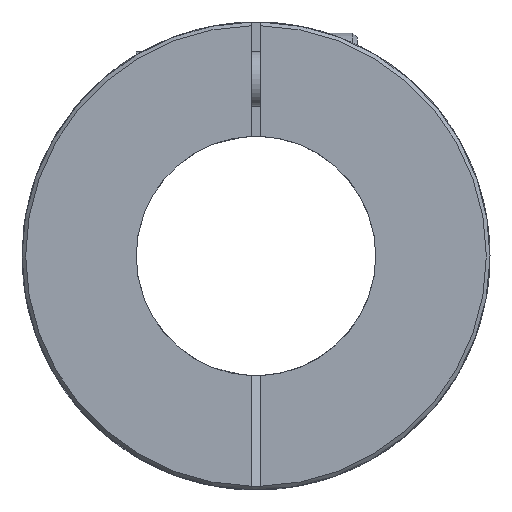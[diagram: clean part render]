
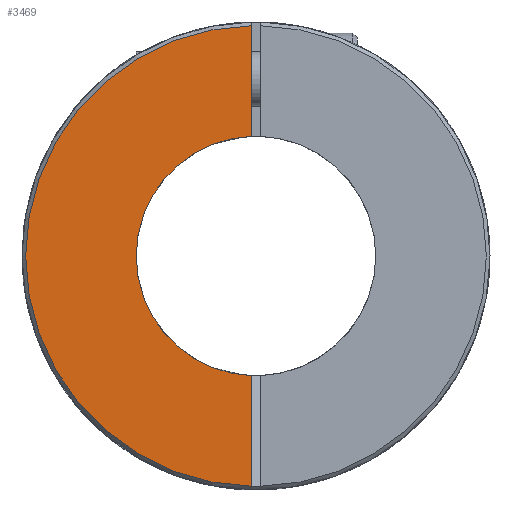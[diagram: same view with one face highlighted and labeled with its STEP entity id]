
A CAD part, front view. The second image highlights one B-rep face of the part: STEP entity #3469.
In plain terms, the highlighted planar face has unit normal (0, -1, 0).
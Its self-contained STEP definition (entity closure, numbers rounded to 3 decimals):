
#1=DIRECTION('',(0.,0.,-1.));
#2=VECTOR('',#1,12.005);
#3=CARTESIAN_POINT('',(-0.5,-47.65,24.995));
#4=LINE('',#3,#2);
#5=CARTESIAN_POINT('',(0.,-47.65,0.));
#6=DIRECTION('',(0.,1.,0.));
#7=DIRECTION('',(-1.,0.,0.));
#8=AXIS2_PLACEMENT_3D('',#5,#6,#7);
#10=CARTESIAN_POINT('',(0.,-47.65,0.));
#11=DIRECTION('',(0.,1.,0.));
#12=DIRECTION('',(-0.038,0.,-0.999));
#13=AXIS2_PLACEMENT_3D('',#10,#11,#12);
#15=DIRECTION('',(0.,0.,-1.));
#16=VECTOR('',#15,12.005);
#17=CARTESIAN_POINT('',(-0.5,-47.65,-12.99));
#18=LINE('',#17,#16);
#2955=CARTESIAN_POINT('',(0.,-47.65,0.));
#2956=DIRECTION('',(0.,-1.,0.));
#2957=DIRECTION('',(-0.02,0.,1.));
#2958=AXIS2_PLACEMENT_3D('',#2955,#2956,#2957);
#3124=CARTESIAN_POINT('',(-13.,-47.65,0.));
#3125=VERTEX_POINT('',#3124);
#3248=CARTESIAN_POINT('',(-0.5,-47.65,24.995));
#3249=CARTESIAN_POINT('',(-0.5,-47.65,12.99));
#3250=VERTEX_POINT('',#3248);
#3251=VERTEX_POINT('',#3249);
#3252=CARTESIAN_POINT('',(-0.5,-47.65,-12.99));
#3253=CARTESIAN_POINT('',(-0.5,-47.65,-24.995));
#3254=VERTEX_POINT('',#3252);
#3255=VERTEX_POINT('',#3253);
#3452=CARTESIAN_POINT('',(0.,-47.65,0.));
#3453=DIRECTION('',(0.,1.,0.));
#3454=DIRECTION('',(1.,0.,0.));
#3455=AXIS2_PLACEMENT_3D('',#3452,#3453,#3454);
#3456=PLANE('',#3455);
#3458=ORIENTED_EDGE('',*,*,#3457,.T.);
#3460=ORIENTED_EDGE('',*,*,#3459,.F.);
#3462=ORIENTED_EDGE('',*,*,#3461,.F.);
#3464=ORIENTED_EDGE('',*,*,#3463,.T.);
#3466=ORIENTED_EDGE('',*,*,#3465,.F.);
#3467=EDGE_LOOP('',(#3458,#3460,#3462,#3464,#3466));
#3468=FACE_OUTER_BOUND('',#3467,.F.);
#3469=ADVANCED_FACE('',(#3468),#3456,.F.);
#9=CIRCLE('',#8,13.);
#14=CIRCLE('',#13,13.);
#2959=CIRCLE('',#2958,25.);
#3457=EDGE_CURVE('',#3250,#3251,#4,.T.);
#3459=EDGE_CURVE('',#3125,#3251,#9,.T.);
#3461=EDGE_CURVE('',#3254,#3125,#14,.T.);
#3463=EDGE_CURVE('',#3254,#3255,#18,.T.);
#3465=EDGE_CURVE('',#3250,#3255,#2959,.T.);
